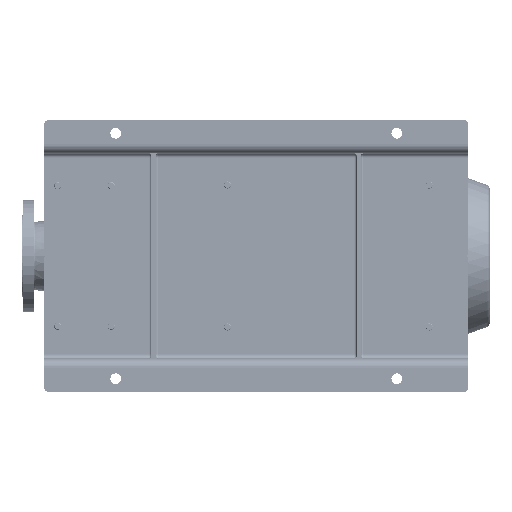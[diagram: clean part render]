
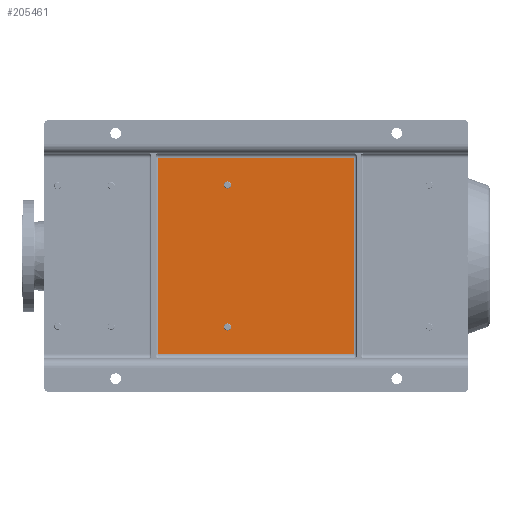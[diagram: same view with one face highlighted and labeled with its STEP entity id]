
A CAD part, front view. The second image highlights one B-rep face of the part: STEP entity #205461.
In plain terms, the highlighted planar face has unit normal (0, -1, 0).
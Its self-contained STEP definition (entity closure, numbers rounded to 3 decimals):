
#1479 = VECTOR ( 'NONE', #286933, 1000. ) ;
#1544 = EDGE_CURVE ( 'NONE', #275070, #54547, #278911, .T. ) ;
#3894 = DIRECTION ( 'NONE',  ( 0., 0., -1. ) ) ;
#6489 = DIRECTION ( 'NONE',  ( 0., 0., 1. ) ) ;
#12832 = DIRECTION ( 'NONE',  ( 0., -1., 0. ) ) ;
#14816 = AXIS2_PLACEMENT_3D ( 'NONE', #77713, #80916, #6489 ) ;
#16952 = VECTOR ( 'NONE', #211414, 1000. ) ;
#20714 = CARTESIAN_POINT ( 'NONE',  ( 464., 65., -418.65 ) ) ;
#27131 = EDGE_CURVE ( 'NONE', #94781, #241364, #229675, .T. ) ;
#35698 = ORIENTED_EDGE ( 'NONE', *, *, #189979, .T. ) ;
#38333 = LINE ( 'NONE', #235709, #16952 ) ;
#38680 = CARTESIAN_POINT ( 'NONE',  ( 75., 65., -950. ) ) ;
#54547 = VERTEX_POINT ( 'NONE', #236301 ) ;
#64932 = CARTESIAN_POINT ( 'NONE',  ( 146., 65., -418.65 ) ) ;
#66440 = VECTOR ( 'NONE', #284912, 1000. ) ;
#77713 = CARTESIAN_POINT ( 'NONE',  ( 464., 65., -410.65 ) ) ;
#80916 = DIRECTION ( 'NONE',  ( 0., 1., 0. ) ) ;
#91032 = VERTEX_POINT ( 'NONE', #195136 ) ;
#93438 = AXIS2_PLACEMENT_3D ( 'NONE', #38680, #12832, #263524 ) ;
#94781 = VERTEX_POINT ( 'NONE', #296358 ) ;
#100867 = EDGE_CURVE ( 'NONE', #241364, #91032, #38333, .T. ) ;
#102425 = CARTESIAN_POINT ( 'NONE',  ( 146., 65., -410.65 ) ) ;
#117828 = DIRECTION ( 'NONE',  ( 0., 1., 0. ) ) ;
#120297 = DIRECTION ( 'NONE',  ( 0., 0., -1. ) ) ;
#120722 = EDGE_CURVE ( 'NONE', #221781, #123235, #144697, .T. ) ;
#123235 = VERTEX_POINT ( 'NONE', #64932 ) ;
#131625 = CARTESIAN_POINT ( 'NONE',  ( 146., 65., -410.65 ) ) ;
#134017 = VECTOR ( 'NONE', #250782, 1000. ) ;
#138992 = FACE_OUTER_BOUND ( 'NONE', #283665, .T. ) ;
#141319 = CARTESIAN_POINT ( 'NONE',  ( 525., 65., -250. ) ) ;
#144697 = CIRCLE ( 'NONE', #268704, 8. ) ;
#150427 = EDGE_CURVE ( 'NONE', #162540, #94781, #184629, .T. ) ;
#160875 = ORIENTED_EDGE ( 'NONE', *, *, #150427, .T. ) ;
#162540 = VERTEX_POINT ( 'NONE', #176106 ) ;
#169490 = CIRCLE ( 'NONE', #227030, 8. ) ;
#176106 = CARTESIAN_POINT ( 'NONE',  ( 525., 65., -255. ) ) ;
#184629 = LINE ( 'NONE', #262241, #66440 ) ;
#187471 = CARTESIAN_POINT ( 'NONE',  ( 146., 65., -402.65 ) ) ;
#188225 = LINE ( 'NONE', #141319, #1479 ) ;
#189006 = ORIENTED_EDGE ( 'NONE', *, *, #27131, .T. ) ;
#189979 = EDGE_CURVE ( 'NONE', #123235, #221781, #169490, .T. ) ;
#190847 = AXIS2_PLACEMENT_3D ( 'NONE', #240772, #117828, #315154 ) ;
#195136 = CARTESIAN_POINT ( 'NONE',  ( 525., 65., -695. ) ) ;
#205461 = ADVANCED_FACE ( 'NONE', ( #308860, #237639, #138992 ), #312031, .T. ) ;
#206006 = DIRECTION ( 'NONE',  ( 0., 1., 0. ) ) ;
#211414 = DIRECTION ( 'NONE',  ( 1., 0., 0. ) ) ;
#221781 = VERTEX_POINT ( 'NONE', #187471 ) ;
#227030 = AXIS2_PLACEMENT_3D ( 'NONE', #131625, #206006, #3894 ) ;
#229675 = LINE ( 'NONE', #305634, #134017 ) ;
#235709 = CARTESIAN_POINT ( 'NONE',  ( 75., 65., -695. ) ) ;
#236301 = CARTESIAN_POINT ( 'NONE',  ( 464., 65., -402.65 ) ) ;
#237639 = FACE_BOUND ( 'NONE', #314979, .T. ) ;
#240772 = CARTESIAN_POINT ( 'NONE',  ( 464., 65., -410.65 ) ) ;
#241364 = VERTEX_POINT ( 'NONE', #271599 ) ;
#247414 = CIRCLE ( 'NONE', #14816, 8. ) ;
#249903 = EDGE_CURVE ( 'NONE', #54547, #275070, #247414, .T. ) ;
#250782 = DIRECTION ( 'NONE',  ( 0., 0., -1. ) ) ;
#251366 = ORIENTED_EDGE ( 'NONE', *, *, #270549, .T. ) ;
#262241 = CARTESIAN_POINT ( 'NONE',  ( 75., 65., -255. ) ) ;
#263524 = DIRECTION ( 'NONE',  ( 0., 0., -1. ) ) ;
#267541 = DIRECTION ( 'NONE',  ( 0., 1., 0. ) ) ;
#267607 = ORIENTED_EDGE ( 'NONE', *, *, #120722, .T. ) ;
#268704 = AXIS2_PLACEMENT_3D ( 'NONE', #102425, #267541, #120297 ) ;
#270549 = EDGE_CURVE ( 'NONE', #91032, #162540, #188225, .T. ) ;
#271599 = CARTESIAN_POINT ( 'NONE',  ( 85., 65., -695. ) ) ;
#274795 = ORIENTED_EDGE ( 'NONE', *, *, #100867, .T. ) ;
#275070 = VERTEX_POINT ( 'NONE', #20714 ) ;
#278911 = CIRCLE ( 'NONE', #190847, 8. ) ;
#283665 = EDGE_LOOP ( 'NONE', ( #189006, #274795, #251366, #160875 ) ) ;
#284912 = DIRECTION ( 'NONE',  ( -1., 0., 0. ) ) ;
#286933 = DIRECTION ( 'NONE',  ( 0., 0., 1. ) ) ;
#296358 = CARTESIAN_POINT ( 'NONE',  ( 85., 65., -255. ) ) ;
#297893 = EDGE_LOOP ( 'NONE', ( #308668, #302395 ) ) ;
#302395 = ORIENTED_EDGE ( 'NONE', *, *, #1544, .T. ) ;
#305634 = CARTESIAN_POINT ( 'NONE',  ( 85., 65., -700. ) ) ;
#308668 = ORIENTED_EDGE ( 'NONE', *, *, #249903, .T. ) ;
#308860 = FACE_BOUND ( 'NONE', #297893, .T. ) ;
#312031 = PLANE ( 'NONE',  #93438 ) ;
#314979 = EDGE_LOOP ( 'NONE', ( #267607, #35698 ) ) ;
#315154 = DIRECTION ( 'NONE',  ( 0., 0., 1. ) ) ;
